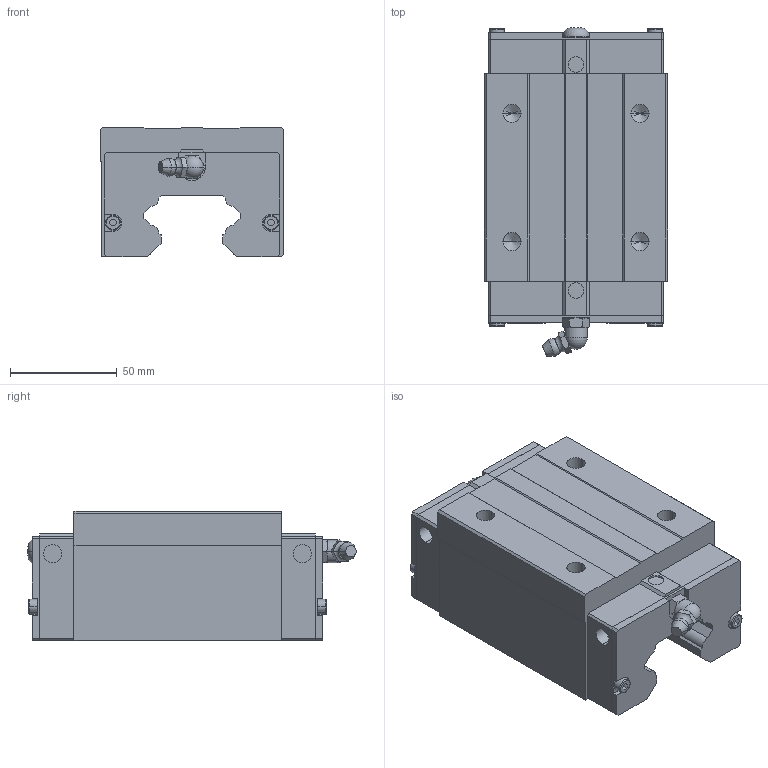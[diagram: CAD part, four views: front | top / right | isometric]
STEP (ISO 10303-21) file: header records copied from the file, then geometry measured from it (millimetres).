
FILE_DESCRIPTION(('no description'),'unknown implementation level');
FILE_NAME('QHH45CA_Z0_H_SS_11.stp',' ',('HIWIN GmbH'),('CADClick - KiM GmbH - www.kimweb.de'),'unknown preprocess','ACIS','unknown authorization');
FILE_SCHEMA(('automotive_design'));
Length unit declared in the file: millimetre
Products named in the file (1): QHH45CA Z0 H SS
Bounding box: 86 x 153.72 x 60.8 mm (x, y, z)
Volume: 511872.5 mm3; surface area: 60876.3 mm2
Topology: 1 solids, 6 shells, 295 faces, 753 edges, 475 vertices
Faces by surface type: plane 181, cylinder 60, torus 30, cone 22, sphere 2
Entity records: 17432 total; most frequent: CARTESIAN_POINT 1814, STYLED_ITEM 1514, PRESENTATION_STYLE_ASSIGNMENT 1514, COLOUR_RGB 1514, DIRECTION 1486, ORIENTED_EDGE 1486, EDGE_CURVE 743, CURVE_STYLE 743
